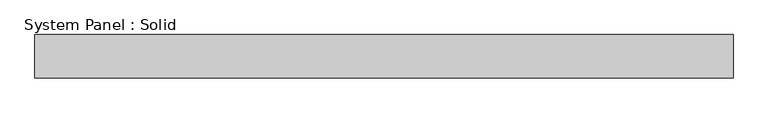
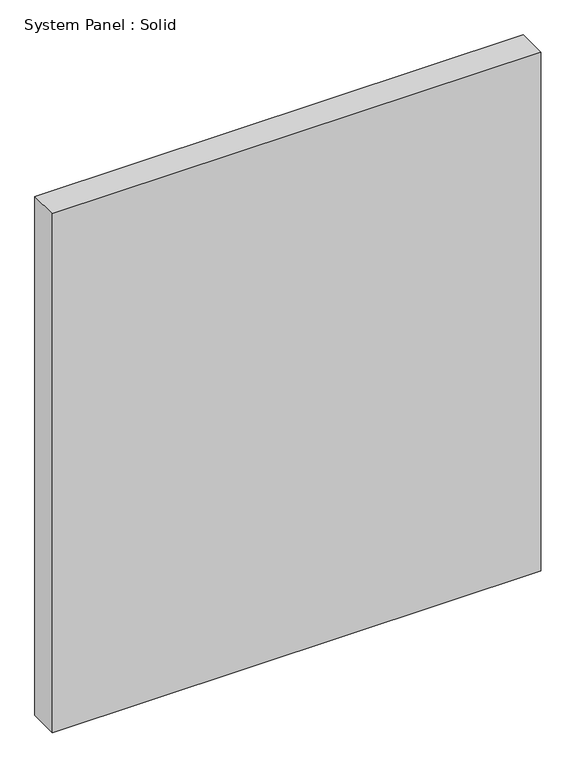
"""IFC4 building model written with IfcOpenShell, lengths in millimetres: plate geometry, System Panel : Solid."""

from ifc_helpers import new_model, si_unit, origin, origin_with_axes, place, context, project, spatial, polyline, outline, extrude, source, transform, mapped, element, save


def system_panel_solid_cf5446f1(model_context):
    return source(origin(), model_context, "Body", "SweptSolid", [
        extrude(outline(polyline([(514.35, -19.05), (-514.35, -19.05), (-514.35, 44.45), (514.35, 44.45), (514.35, -19.05)])), origin_with_axes(), (0.0, 0.0, 1.0), 1155.7),
    ])


if __name__ == "__main__":
    model = new_model("IFC4")
    model_context = context("Model", 3, world=origin())
    ifc_project = project(units=[si_unit("LENGTHUNIT", "METRE", prefix="MILLI")], contexts=[model_context])
    site = spatial("IfcSite", under=ifc_project)
    building = spatial("IfcBuilding", under=site)
    placement = place(None, origin())
    system_panel_solid_shape = system_panel_solid_cf5446f1(model_context)
    element("IfcPlate", 1, ObjectType="System Panel : Solid", at=placement, inside=building, context=model_context, shape_type="MappedRepresentation", body=[
        mapped(system_panel_solid_shape, transform((0.0, 0.0, 0.0), x_axis=(1.0, 0.0, 0.0), y_axis=(0.0, 1.0, 0.0), z_axis=(0.0, 0.0, 1.0))),
    ])
    save(model, "model.ifc")
